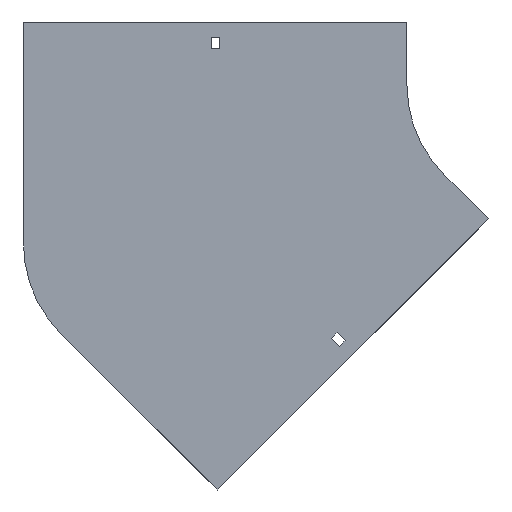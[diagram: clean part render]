
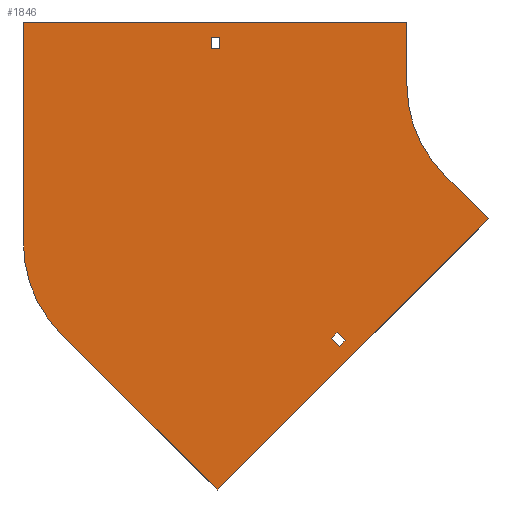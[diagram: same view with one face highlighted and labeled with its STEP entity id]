
A CAD part, front view. The second image highlights one B-rep face of the part: STEP entity #1846.
In plain terms, the highlighted planar face has unit normal (0, -1, 0).
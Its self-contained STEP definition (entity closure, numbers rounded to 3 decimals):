
#26 = VECTOR ( 'NONE', #1897, 1000. ) ;
#81 = CARTESIAN_POINT ( 'NONE',  ( -159.983, 0., -200.995 ) ) ;
#104 = ORIENTED_EDGE ( 'NONE', *, *, #1509, .T. ) ;
#127 = CARTESIAN_POINT ( 'NONE',  ( -70.711, 0., -70.711 ) ) ;
#143 = CARTESIAN_POINT ( 'NONE',  ( -248.75, 0., 38. ) ) ;
#147 = CARTESIAN_POINT ( 'NONE',  ( -155.387, 0., -196.399 ) ) ;
#153 = EDGE_LOOP ( 'NONE', ( #104, #432, #1890, #378 ) ) ;
#157 = VECTOR ( 'NONE', #1414, 1000. ) ;
#193 = LINE ( 'NONE', #1402, #525 ) ;
#200 = EDGE_CURVE ( 'NONE', #1405, #514, #1783, .T. ) ;
#203 = CARTESIAN_POINT ( 'NONE',  ( -100., 0., 0. ) ) ;
#217 = VERTEX_POINT ( 'NONE', #430 ) ;
#235 = CARTESIAN_POINT ( 'NONE',  ( 0., 0., 0. ) ) ;
#245 = VERTEX_POINT ( 'NONE', #715 ) ;
#247 = CIRCLE ( 'NONE', #1250, 100. ) ;
#256 = CARTESIAN_POINT ( 'NONE',  ( -159.983, 0., -200.995 ) ) ;
#262 = LINE ( 'NONE', #81, #26 ) ;
#268 = LINE ( 'NONE', #859, #411 ) ;
#271 = DIRECTION ( 'NONE',  ( 0., -1., 0. ) ) ;
#321 = VERTEX_POINT ( 'NONE', #623 ) ;
#328 = CARTESIAN_POINT ( 'NONE',  ( -255.25, 0., 38. ) ) ;
#353 = VERTEX_POINT ( 'NONE', #328 ) ;
#358 = CARTESIAN_POINT ( 'NONE',  ( -35.355, 0., -106.066 ) ) ;
#376 = ORIENTED_EDGE ( 'NONE', *, *, #463, .F. ) ;
#378 = ORIENTED_EDGE ( 'NONE', *, *, #1018, .T. ) ;
#395 = LINE ( 'NONE', #1015, #1948 ) ;
#401 = DIRECTION ( 'NONE',  ( 0.707, 0., -0.707 ) ) ;
#408 = VERTEX_POINT ( 'NONE', #504 ) ;
#411 = VECTOR ( 'NONE', #1316, 1000. ) ;
#416 = CARTESIAN_POINT ( 'NONE',  ( -159.983, 0., -200.995 ) ) ;
#428 = CARTESIAN_POINT ( 'NONE',  ( -248.75, 0., 29. ) ) ;
#430 = CARTESIAN_POINT ( 'NONE',  ( -250.316, 0., -321.026 ) ) ;
#432 = ORIENTED_EDGE ( 'NONE', *, *, #1044, .T. ) ;
#462 = VERTEX_POINT ( 'NONE', #203 ) ;
#463 = EDGE_CURVE ( 'NONE', #1508, #1759, #676, .T. ) ;
#485 = CARTESIAN_POINT ( 'NONE',  ( -153.619, 0., -207.359 ) ) ;
#492 = DIRECTION ( 'NONE',  ( 0.707, 0., 0.707 ) ) ;
#504 = CARTESIAN_POINT ( 'NONE',  ( -100., 0., 50. ) ) ;
#509 = EDGE_CURVE ( 'NONE', #1722, #1549, #193, .T. ) ;
#514 = VERTEX_POINT ( 'NONE', #358 ) ;
#525 = VECTOR ( 'NONE', #1700, 1000. ) ;
#528 = DIRECTION ( 'NONE',  ( 0., 0., 1. ) ) ;
#554 = CARTESIAN_POINT ( 'NONE',  ( 0., 0., 0. ) ) ;
#576 = ORIENTED_EDGE ( 'NONE', *, *, #1203, .F. ) ;
#581 = LINE ( 'NONE', #1038, #1168 ) ;
#586 = DIRECTION ( 'NONE',  ( 0., -1., 0. ) ) ;
#610 = DIRECTION ( 'NONE',  ( 0., 0., 1. ) ) ;
#612 = VECTOR ( 'NONE', #401, 1000. ) ;
#616 = LINE ( 'NONE', #1520, #1674 ) ;
#623 = CARTESIAN_POINT ( 'NONE',  ( -248.75, 0., 29. ) ) ;
#638 = ORIENTED_EDGE ( 'NONE', *, *, #809, .F. ) ;
#676 = CIRCLE ( 'NONE', #1432, 100. ) ;
#687 = CARTESIAN_POINT ( 'NONE',  ( -255.25, 0., 29. ) ) ;
#690 = PLANE ( 'NONE',  #1567 ) ;
#692 = EDGE_LOOP ( 'NONE', ( #912, #1454, #376, #576, #1835, #999, #638, #756 ) ) ;
#715 = CARTESIAN_POINT ( 'NONE',  ( -255.25, 0., 29. ) ) ;
#718 = FACE_BOUND ( 'NONE', #1706, .T. ) ;
#726 = VECTOR ( 'NONE', #492, 1000. ) ;
#729 = ORIENTED_EDGE ( 'NONE', *, *, #1862, .F. ) ;
#749 = EDGE_CURVE ( 'NONE', #514, #217, #395, .T. ) ;
#756 = ORIENTED_EDGE ( 'NONE', *, *, #917, .F. ) ;
#801 = DIRECTION ( 'NONE',  ( 0., 0., -1. ) ) ;
#809 = EDGE_CURVE ( 'NONE', #462, #1405, #247, .T. ) ;
#811 = EDGE_CURVE ( 'NONE', #1367, #1430, #1005, .T. ) ;
#830 = LINE ( 'NONE', #1311, #1770 ) ;
#859 = CARTESIAN_POINT ( 'NONE',  ( -404., 0., -125.921 ) ) ;
#863 = FACE_BOUND ( 'NONE', #153, .T. ) ;
#895 = ORIENTED_EDGE ( 'NONE', *, *, #509, .F. ) ;
#902 = ORIENTED_EDGE ( 'NONE', *, *, #1241, .F. ) ;
#912 = ORIENTED_EDGE ( 'NONE', *, *, #1476, .F. ) ;
#917 = EDGE_CURVE ( 'NONE', #408, #462, #616, .T. ) ;
#945 = VECTOR ( 'NONE', #1059, 1000. ) ;
#946 = ORIENTED_EDGE ( 'NONE', *, *, #811, .F. ) ;
#973 = DIRECTION ( 'NONE',  ( 1., 0., 0. ) ) ;
#999 = ORIENTED_EDGE ( 'NONE', *, *, #200, .F. ) ;
#1005 = LINE ( 'NONE', #256, #1507 ) ;
#1015 = CARTESIAN_POINT ( 'NONE',  ( -35.355, 0., -106.066 ) ) ;
#1018 = EDGE_CURVE ( 'NONE', #321, #245, #1613, .T. ) ;
#1038 = CARTESIAN_POINT ( 'NONE',  ( -255.25, 0., 29. ) ) ;
#1042 = LINE ( 'NONE', #428, #945 ) ;
#1044 = EDGE_CURVE ( 'NONE', #353, #1142, #1726, .T. ) ;
#1048 = VERTEX_POINT ( 'NONE', #1138 ) ;
#1059 = DIRECTION ( 'NONE',  ( 0., 0., -1. ) ) ;
#1070 = LINE ( 'NONE', #485, #726 ) ;
#1093 = CARTESIAN_POINT ( 'NONE',  ( -404., 0., -125.921 ) ) ;
#1115 = CARTESIAN_POINT ( 'NONE',  ( -70.711, 0., -70.711 ) ) ;
#1138 = CARTESIAN_POINT ( 'NONE',  ( -404., 0., 50. ) ) ;
#1142 = VERTEX_POINT ( 'NONE', #143 ) ;
#1168 = VECTOR ( 'NONE', #610, 1000. ) ;
#1203 = EDGE_CURVE ( 'NONE', #217, #1508, #1792, .T. ) ;
#1205 = EDGE_CURVE ( 'NONE', #1142, #321, #1042, .T. ) ;
#1209 = EDGE_CURVE ( 'NONE', #1759, #1048, #268, .T. ) ;
#1241 = EDGE_CURVE ( 'NONE', #1430, #1722, #1070, .T. ) ;
#1250 = AXIS2_PLACEMENT_3D ( 'NONE', #554, #586, #1756 ) ;
#1311 = CARTESIAN_POINT ( 'NONE',  ( -404., 0., 50. ) ) ;
#1316 = DIRECTION ( 'NONE',  ( 0., 0., 1. ) ) ;
#1353 = VECTOR ( 'NONE', #973, 1000. ) ;
#1367 = VERTEX_POINT ( 'NONE', #416 ) ;
#1369 = DIRECTION ( 'NONE',  ( 1., 0., 0. ) ) ;
#1402 = CARTESIAN_POINT ( 'NONE',  ( -155.387, 0., -196.399 ) ) ;
#1405 = VERTEX_POINT ( 'NONE', #1115 ) ;
#1414 = DIRECTION ( 'NONE',  ( -1., 0., 0. ) ) ;
#1430 = VERTEX_POINT ( 'NONE', #1917 ) ;
#1432 = AXIS2_PLACEMENT_3D ( 'NONE', #1840, #1540, #528 ) ;
#1454 = ORIENTED_EDGE ( 'NONE', *, *, #1209, .F. ) ;
#1476 = EDGE_CURVE ( 'NONE', #1048, #408, #830, .T. ) ;
#1506 = CARTESIAN_POINT ( 'NONE',  ( -374.711, 0., -196.632 ) ) ;
#1507 = VECTOR ( 'NONE', #1676, 1000. ) ;
#1508 = VERTEX_POINT ( 'NONE', #1506 ) ;
#1509 = EDGE_CURVE ( 'NONE', #245, #353, #581, .T. ) ;
#1520 = CARTESIAN_POINT ( 'NONE',  ( -100., 0., 50. ) ) ;
#1540 = DIRECTION ( 'NONE',  ( 0., 1., 0. ) ) ;
#1542 = VECTOR ( 'NONE', #1920, 1000. ) ;
#1549 = VERTEX_POINT ( 'NONE', #147 ) ;
#1566 = CARTESIAN_POINT ( 'NONE',  ( -149.023, 0., -202.763 ) ) ;
#1567 = AXIS2_PLACEMENT_3D ( 'NONE', #235, #271, #1615 ) ;
#1587 = FACE_OUTER_BOUND ( 'NONE', #692, .T. ) ;
#1613 = LINE ( 'NONE', #687, #157 ) ;
#1615 = DIRECTION ( 'NONE',  ( 0., 0., -1. ) ) ;
#1674 = VECTOR ( 'NONE', #801, 1000. ) ;
#1676 = DIRECTION ( 'NONE',  ( 0.707, 0., -0.707 ) ) ;
#1700 = DIRECTION ( 'NONE',  ( -0.707, 0., 0.707 ) ) ;
#1706 = EDGE_LOOP ( 'NONE', ( #902, #946, #729, #895 ) ) ;
#1722 = VERTEX_POINT ( 'NONE', #1566 ) ;
#1726 = LINE ( 'NONE', #1736, #1353 ) ;
#1736 = CARTESIAN_POINT ( 'NONE',  ( -255.25, 0., 38. ) ) ;
#1756 = DIRECTION ( 'NONE',  ( 0., 0., -1. ) ) ;
#1759 = VERTEX_POINT ( 'NONE', #1093 ) ;
#1770 = VECTOR ( 'NONE', #1369, 1000. ) ;
#1783 = LINE ( 'NONE', #127, #612 ) ;
#1792 = LINE ( 'NONE', #1930, #1542 ) ;
#1835 = ORIENTED_EDGE ( 'NONE', *, *, #749, .F. ) ;
#1840 = CARTESIAN_POINT ( 'NONE',  ( -304., 0., -125.921 ) ) ;
#1846 = ADVANCED_FACE ( 'NONE', ( #863, #1587, #718 ), #690, .T. ) ;
#1862 = EDGE_CURVE ( 'NONE', #1549, #1367, #262, .T. ) ;
#1890 = ORIENTED_EDGE ( 'NONE', *, *, #1205, .T. ) ;
#1897 = DIRECTION ( 'NONE',  ( -0.707, 0., -0.707 ) ) ;
#1917 = CARTESIAN_POINT ( 'NONE',  ( -153.619, 0., -207.359 ) ) ;
#1920 = DIRECTION ( 'NONE',  ( -0.707, 0., 0.707 ) ) ;
#1930 = CARTESIAN_POINT ( 'NONE',  ( -250.316, 0., -321.026 ) ) ;
#1941 = DIRECTION ( 'NONE',  ( -0.707, 0., -0.707 ) ) ;
#1948 = VECTOR ( 'NONE', #1941, 1000. ) ;
